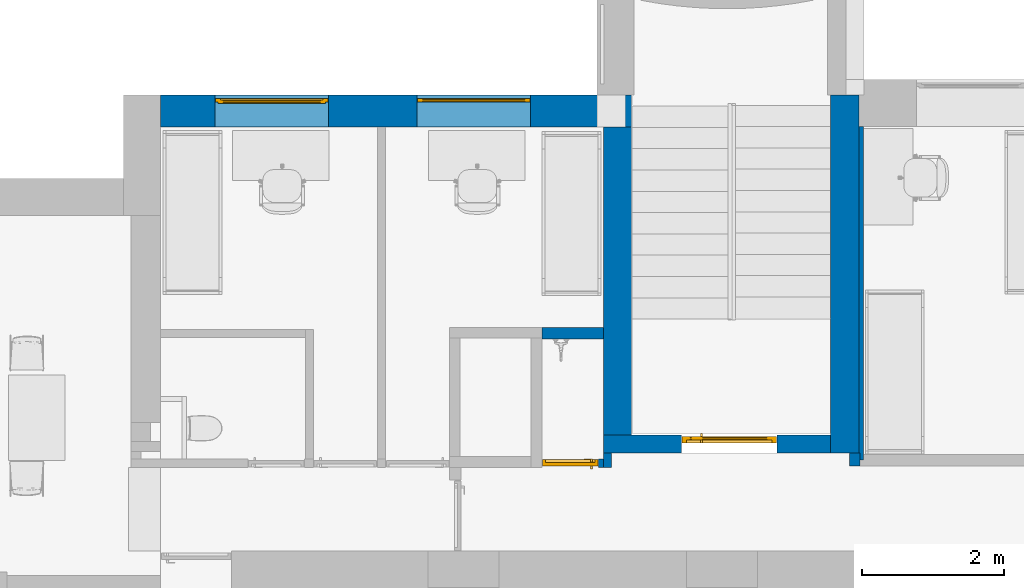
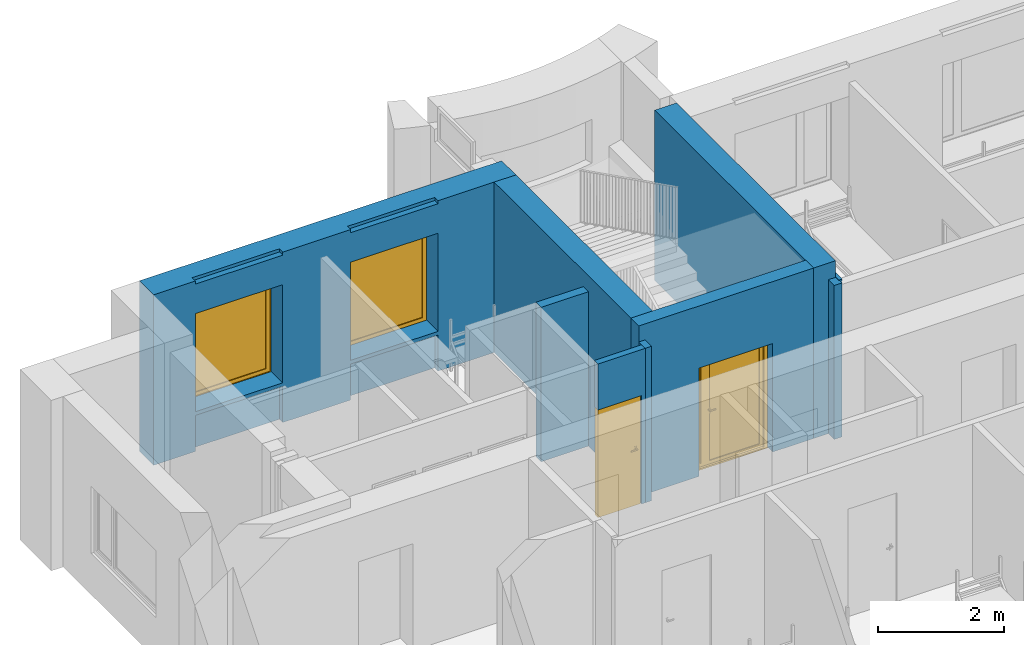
# One storey, part 6 of 48: 9 walls, 2 doors, 2 windows, 5 openings.
"""IFC2X3 building model written with IfcOpenShell, lengths in millimetres."""

from ifc_helpers import new_model, entity, si_unit, converted_unit, derived_unit, direction, frame, frame_2d, origin, origin_2d_with_axis, place, context, subcontext, project, spatial, polyline, rectangle, outline, extrude, faceted_brep, source, transform, mapped, material, material_list, layer, layer_set, layer_usage, type_object, type_shapes, element, fill, save


model = new_model("IFC2X3")

# Units and contexts
model_context = context("Model", 3, precision=0.01, world=origin(), true_north=direction((6.12303176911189e-17, 1.0)))
body_context = subcontext(model_context, "Body", "Model", "MODEL_VIEW")
ifc_project = project(units=[si_unit("LENGTHUNIT", "METRE", prefix="MILLI"), si_unit("AREAUNIT", "SQUARE_METRE"), si_unit("VOLUMEUNIT", "CUBIC_METRE"), converted_unit("PLANEANGLEUNIT", "DEGREE", entity("IfcRatioMeasure", 0.0174532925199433), si_unit("PLANEANGLEUNIT", "RADIAN"), dimensions=[0, 0, 0, 0, 0, 0, 0]), si_unit("MASSUNIT", "GRAM", prefix="KILO"), derived_unit("MASSDENSITYUNIT", [(si_unit("MASSUNIT", "GRAM", prefix="KILO"), 1), (si_unit("LENGTHUNIT", "METRE"), -3)]), si_unit("TIMEUNIT", "SECOND"), si_unit("FREQUENCYUNIT", "HERTZ"), si_unit("THERMODYNAMICTEMPERATUREUNIT", "DEGREE_CELSIUS"), derived_unit("THERMALTRANSMITTANCEUNIT", [(si_unit("MASSUNIT", "GRAM", prefix="KILO"), 1), (si_unit("THERMODYNAMICTEMPERATUREUNIT", "KELVIN"), -1), (si_unit("TIMEUNIT", "SECOND"), -3)]), derived_unit("VOLUMETRICFLOWRATEUNIT", [(si_unit("LENGTHUNIT", "METRE"), 3), (si_unit("TIMEUNIT", "SECOND"), -1)]), si_unit("ELECTRICCURRENTUNIT", "AMPERE"), si_unit("ELECTRICVOLTAGEUNIT", "VOLT"), si_unit("POWERUNIT", "WATT"), si_unit("FORCEUNIT", "NEWTON", prefix="KILO"), si_unit("ILLUMINANCEUNIT", "LUX"), si_unit("LUMINOUSFLUXUNIT", "LUMEN"), si_unit("LUMINOUSINTENSITYUNIT", "CANDELA"), derived_unit("USERDEFINED", [(si_unit("MASSUNIT", "GRAM", prefix="KILO"), -1), (si_unit("LENGTHUNIT", "METRE"), -2), (si_unit("TIMEUNIT", "SECOND"), 3), (si_unit("LUMINOUSFLUXUNIT", "LUMEN"), 1)]), derived_unit("LINEARVELOCITYUNIT", [(si_unit("LENGTHUNIT", "METRE"), 1), (si_unit("TIMEUNIT", "SECOND"), -1)]), si_unit("PRESSUREUNIT", "PASCAL"), derived_unit("USERDEFINED", [(si_unit("LENGTHUNIT", "METRE"), -2), (si_unit("MASSUNIT", "GRAM", prefix="KILO"), 1), (si_unit("TIMEUNIT", "SECOND"), -2)]), derived_unit("LINEARFORCEUNIT", [(si_unit("MASSUNIT", "GRAM", prefix="KILO"), 1), (si_unit("LENGTHUNIT", "METRE"), 1), (si_unit("TIMEUNIT", "SECOND"), -2), (si_unit("LENGTHUNIT", "METRE"), -1)]), derived_unit("PLANARFORCEUNIT", [(si_unit("MASSUNIT", "GRAM", prefix="KILO"), 1), (si_unit("LENGTHUNIT", "METRE"), 1), (si_unit("TIMEUNIT", "SECOND"), -2), (si_unit("LENGTHUNIT", "METRE"), -2)])], contexts=[model_context])

# Site, building, storey
site_placement = place(None, origin())
site = spatial("IfcSite", under=ifc_project, at=site_placement, Name="Default", CompositionType="ELEMENT")
building_placement = place(site_placement, origin())
building = spatial("IfcBuilding", under=site, at=building_placement, Name="SMA ARH", CompositionType="ELEMENT")
storey_placement = place(building_placement, frame((0.0, 0.0, 3300.0)))
storey = spatial("IfcBuildingStorey", under=building, at=storey_placement, Name="2 Korrus", CompositionType="ELEMENT", Elevation=3299.99999999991)

# Walls
ifc_material_1 = material(Name="_ol.olev sein")
ifc_layer_1 = layer(ifc_material_1, 400.0)
ifc_layer_set_1 = layer_set([ifc_layer_1], Name="Basic Wall:Generic - 400mm")
ifc_layer_usage_1 = layer_usage(ifc_layer_set_1, "AXIS2", "POSITIVE", -200.0)
wall_type_1 = type_object("IfcWallType", Name="Basic Wall:Generic - 400mm", PredefinedType="STANDARD", material=ifc_layer_set_1)
wall_1_placement = place(storey_placement, frame((11800.0, 7905.0, 0.0), z_axis=(0.0, 0.0, 1.0), x_axis=(0.0, 1.0, 0.0)))
element("IfcWallStandardCase", 1, at=wall_1_placement, inside=storey, type_object=wall_type_1, material=ifc_layer_usage_1, Name="Basic Wall:Generic - 400mm", ObjectType="Basic Wall:Generic - 400mm", context=body_context, shape_type="SweptSolid", body=[
    extrude(rectangle(XDim=5040.0, YDim=400.0, at=frame_2d((2520.0, 3.12638803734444e-13), x_axis=(-1.0, 0.0))), origin(), (0.0, 0.0, 1.0), 3299.99999999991),
])
ifc_layer_usage_2 = layer_usage(ifc_layer_set_1, "AXIS2", "POSITIVE", -200.0)
wall_2_placement = place(storey_placement, frame((8600.0, 12496.2030428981, 0.0), z_axis=(0.0, 0.0, 1.0), x_axis=(0.0, -1.0, 0.0)))
element("IfcWallStandardCase", 2, at=wall_2_placement, inside=storey, type_object=wall_type_1, material=ifc_layer_usage_2, Name="Basic Wall:Generic - 400mm", ObjectType="Basic Wall:Generic - 400mm", context=body_context, shape_type="SweptSolid", body=[
    extrude(rectangle(XDim=4341.20304289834, YDim=400.0, at=frame_2d((2170.60152144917, -1.98951966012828e-13), x_axis=(-1.0, 0.0))), origin(), (0.0, 0.0, 1.0), 3299.99999999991),
])

# Wall, openings, windows
ifc_layer_2 = layer(ifc_material_1, 450.0)
ifc_layer_set_2 = layer_set([ifc_layer_2], Name="Basic Wall:Generic - 450mm")
ifc_layer_usage_3 = layer_usage(ifc_layer_set_2, "AXIS2", "NEGATIVE", 225.0)
wall_type_2 = type_object("IfcWallType", Name="Basic Wall:Generic - 450mm", PredefinedType="STANDARD", material=ifc_layer_set_2)
wall_3_placement = place(storey_placement, frame((2165.0, 12721.2030428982, 0.0)))
wall_3 = element("IfcWallStandardCase", 3, at=wall_3_placement, inside=storey, type_object=wall_type_2, material=ifc_layer_usage_3, Name="Basic Wall:Generic - 450mm", ObjectType="Basic Wall:Generic - 450mm", context=body_context, shape_type="SweptSolid", body=[
    extrude(rectangle(XDim=6635.0, YDim=450.000000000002, at=frame_2d((3317.5, 2.27373675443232e-13), x_axis=(-1.0, 0.0))), origin(), (0.0, 0.0, 1.0), 3299.99999999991),
])
opening_1_placement = place(wall_3_placement, origin())
element("IfcOpeningElement", 4, at=opening_1_placement, cuts=wall_3, Name="Basic Wall:Generic - 450mm", ObjectType="Recess", context=body_context, shape_type="SweptSolid", body=[
    extrude(rectangle(XDim=757.825710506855, YDim=1600.0, at=frame_2d((-5.40012479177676e-13, 5.11590769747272e-13), x_axis=(1.0, 0.0))), frame((4410.0, -225.0, 3618.91285525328), z_axis=(0.0, 1.0, 0.0), x_axis=(0.0, 0.0, -1.0)), (0.0, 0.0, 1.0), 103.796957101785),
    extrude(rectangle(XDim=757.825710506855, YDim=1600.0, at=frame_2d((-5.40012479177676e-13, -5.11590769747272e-13), x_axis=(1.0, 0.0))), frame((1565.0, -225.0, 3618.91285525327), z_axis=(0.0, 1.0, 0.0), x_axis=(0.0, 0.0, -1.0)), (0.0, 0.0, 1.0), 103.796957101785),
    extrude(rectangle(XDim=757.825710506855, YDim=1600.0, at=frame_2d((0.0, -5.11590769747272e-13), x_axis=(1.0, 0.0))), frame((4410.0, -225.0, 318.912855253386), z_axis=(0.0, 1.0, 0.0), x_axis=(0.0, 0.0, -1.0)), (0.0, 0.0, 1.0), 103.796957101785),
    extrude(rectangle(XDim=757.825710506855, YDim=1600.0, at=origin_2d_with_axis()), frame((1565.0, -225.0, 318.912855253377), z_axis=(0.0, 1.0, 0.0), x_axis=(0.0, 0.0, -1.0)), (0.0, 0.0, 1.0), 103.796957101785),
])
opening_2_placement = place(wall_3_placement, frame((765.0, -225.0, 770.0)))
opening_2 = element("IfcOpeningElement", 5, at=opening_2_placement, cuts=wall_3, Name="SMA_W1, 1-jaotus1:A-00_1650x1900 mm:1", ObjectType="Opening", context=body_context, shape_type="SweptSolid", body=[
    extrude(rectangle(XDim=1900.0, YDim=1600.0, at=frame_2d((950.0, 800.0), x_axis=(1.0, 0.0))), frame((0.0, 0.0, 0.0), z_axis=(0.0, 1.0, 0.0), x_axis=(0.0, 0.0, 1.0)), (0.0, 0.0, 1.0), 450.0),
])
opening_3_placement = place(wall_3_placement, frame((3610.0, -225.0, 770.0)))
opening_3 = element("IfcOpeningElement", 6, at=opening_3_placement, cuts=wall_3, Name="SMA_W1, 1-jaotus1:A-00_1650x1900 mm kinni:1", ObjectType="Opening", context=body_context, shape_type="SweptSolid", body=[
    extrude(rectangle(XDim=1900.0, YDim=1600.0, at=frame_2d((950.0, 800.0), x_axis=(1.0, 0.0))), frame((0.0, 0.0, 0.0), z_axis=(0.0, 1.0, 0.0), x_axis=(0.0, 0.0, 1.0)), (0.0, 0.0, 1.0), 450.0),
])
ifc_material_2 = material(Name="EST. Klaas. 3x. Default")
ifc_material_3 = material(Name="Default")
ifc_material_list_1 = material_list([ifc_material_2, ifc_material_3])
ifc_material_4 = material(Name="<Unnamed>")
ifc_material_list_2 = material_list([ifc_material_2, ifc_material_3, ifc_material_4, ifc_material_3, ifc_material_4])
window_style_1 = type_object("IfcWindowStyle", Name="SMA_W1, 1-jaotus1:A-00_1650x1900 mm", ConstructionType="NOTDEFINED", OperationType="NOTDEFINED", ParameterTakesPrecedence=False, Sizeable=False, material=ifc_material_list_2)
shared_shape_1 = source(origin(), body_context, "Body", "SweptSolid", [
    extrude(rectangle(XDim=20.0, YDim=1370.0, at=frame_2d((1.68753899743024e-14, -1.13686837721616e-13), x_axis=(1.0, 0.0))), frame((800.0, 350.0, 115.0), z_axis=(0.0, 0.0, 1.0), x_axis=(0.0, 1.0, 0.0)), (0.0, 0.0, 1.0), 1670.0),
    extrude(outline(polyline([(-905.0, -755.0), (905.0, -755.0), (905.0, 755.0), (-905.0, 755.0), (-905.0, -755.0)]), holes=[polyline([(835.0, 685.0), (835.0, -685.0), (-835.0, -685.0), (-835.0, 685.0), (835.0, 685.0)])]), frame((800.0, 325.0, 950.0), z_axis=(0.0, 1.0, 0.0), x_axis=(0.0, 0.0, 1.0)), (0.0, 0.0, 1.0), 50.0),
    extrude(outline(polyline([(-940.0, -790.0), (940.0, -790.0), (940.0, 790.0), (-940.0, 790.0), (-940.0, -790.0)]), holes=[polyline([(-870.0, -720.0), (-870.0, 720.0), (870.0, 720.0), (870.0, -720.0), (-870.0, -720.0)])]), frame((800.0, 350.0, 950.0), z_axis=(0.0, 1.0, 0.0), x_axis=(0.0, 0.0, 1.0)), (0.0, 0.0, 1.0), 50.0),
])
type_shapes(window_style_1, [shared_shape_1])
window_1_placement = place(opening_2_placement, origin())
window_1 = element("IfcWindow", 7, at=window_1_placement, inside=storey, type_object=window_style_1, material=ifc_material_list_1, Name="SMA_W1, 1-jaotus1:A-00_1650x1900 mm", ObjectType="SMA_W1, 1-jaotus1:A-00_1650x1900 mm", OverallHeight=1900.0, OverallWidth=1600.0, context=body_context, shape_type="MappedRepresentation", body=[
    mapped(shared_shape_1, transform((0.0, 0.0, 0.0), scale=1.0)),
])
fill(opening_2, window_1)
ifc_material_list_3 = material_list([ifc_material_3, ifc_material_2])
ifc_material_list_4 = material_list([ifc_material_4, ifc_material_3, ifc_material_2, ifc_material_3, ifc_material_4])
window_style_2 = type_object("IfcWindowStyle", Name="SMA_W1, 1-jaotus1:A-00_1650x1900 mm kinni", ConstructionType="NOTDEFINED", OperationType="NOTDEFINED", ParameterTakesPrecedence=False, Sizeable=False, material=ifc_material_list_4)
shared_shape_2 = source(origin(), body_context, "Body", "SweptSolid", [
    extrude(outline(polyline([(-940.0, -790.0), (940.0, -790.0), (940.0, 790.0), (-940.0, 790.0), (-940.0, -790.0)]), holes=[polyline([(-870.0, -720.0), (-870.0, 720.0), (870.0, 720.0), (870.0, -720.0), (-870.0, -720.0)])]), frame((800.0, 350.0, 950.0), z_axis=(0.0, 1.0, 0.0), x_axis=(0.0, 0.0, 1.0)), (0.0, 0.0, 1.0), 50.0),
    extrude(rectangle(XDim=20.0, YDim=1440.0, at=frame_2d((-8.88178419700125e-15, 5.6843418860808e-14), x_axis=(1.0, 0.0))), frame((800.0, 375.0, 80.0), z_axis=(0.0, 0.0, 1.0), x_axis=(0.0, 1.0, 0.0)), (0.0, 0.0, 1.0), 1740.0),
])
type_shapes(window_style_2, [shared_shape_2])
window_2_placement = place(opening_3_placement, origin())
window_2 = element("IfcWindow", 8, at=window_2_placement, inside=storey, type_object=window_style_2, material=ifc_material_list_3, Name="SMA_W1, 1-jaotus1:A-00_1650x1900 mm kinni", ObjectType="SMA_W1, 1-jaotus1:A-00_1650x1900 mm kinni", OverallHeight=1900.0, OverallWidth=1600.0, context=body_context, shape_type="MappedRepresentation", body=[
    mapped(shared_shape_2, transform((0.0, 0.0, 0.0), scale=1.0)),
])
fill(opening_3, window_2)

# Wall, opening, door
ifc_layer_3 = layer(ifc_material_1, 250.0)
ifc_layer_set_3 = layer_set([ifc_layer_3], Name="Basic Wall:Generic - 250mm")
ifc_layer_usage_4 = layer_usage(ifc_layer_set_3, "AXIS2", "POSITIVE", -125.0)
wall_type_3 = type_object("IfcWallType", Name="Basic Wall:Generic - 250mm", PredefinedType="STANDARD", material=ifc_layer_set_3)
wall_4_placement = place(storey_placement, frame((8400.0, 8030.0, 0.0)))
wall_4 = element("IfcWallStandardCase", 9, at=wall_4_placement, inside=storey, type_object=wall_type_3, material=ifc_layer_usage_4, Name="Basic Wall:Generic - 250mm", ObjectType="Basic Wall:Generic - 250mm", context=body_context, shape_type="SweptSolid", body=[
    extrude(rectangle(XDim=3200.0, YDim=249.999999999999, at=frame_2d((1600.0, 7.105427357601e-14), x_axis=(-1.0, 0.0))), origin(), (0.0, 0.0, 1.0), 3299.99999999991),
])
opening_4_placement = place(wall_4_placement, frame((1100.0, -125.0, 0.0)))
opening_4 = element("IfcOpeningElement", 10, at=opening_4_placement, cuts=wall_4, Name="SMA_D02, 2-poolne:SU-AL-03 - 1350x2100:1", ObjectType="Opening", context=body_context, shape_type="SweptSolid", body=[
    extrude(rectangle(XDim=2099.99999999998, YDim=1350.0, at=frame_2d((1049.99999999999, 675.0), x_axis=(1.0, 0.0))), frame((0.0, 0.0, 0.0), z_axis=(0.0, 1.0, 0.0), x_axis=(0.0, 0.0, 1.0)), (0.0, 0.0, 1.0), 250.0),
])
ifc_material_5 = material(Name="EST. Metall. Plekk. Värvitud. RAL7023 (Concrete grey)")
ifc_material_list_5 = material_list([ifc_material_5, ifc_material_2])
ifc_material_list_6 = material_list([ifc_material_5, ifc_material_4, ifc_material_5, ifc_material_5, ifc_material_4, ifc_material_2, ifc_material_4])
door_style_1 = type_object("IfcDoorStyle", Name="SMA_D02, 2-poolne:SU-AL-03 - 1350x2100", ConstructionType="NOTDEFINED", OperationType="NOTDEFINED", ParameterTakesPrecedence=False, Sizeable=False, material=ifc_material_list_6)
shared_shape_3 = source(origin(), body_context, "Body", "Brep", [
    faceted_brep([(297.499999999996, 140.0, 1100.0), (297.499999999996, 178.0, 1100.0), (272.499999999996, 178.0, 1100.0), (272.499999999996, 135.0, 1100.0), (392.499999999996, 135.0, 1100.0), (392.499999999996, 140.0, 1100.0), (297.499999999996, 140.0, 1075.0), (392.499999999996, 140.0, 1075.0), (392.499999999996, 135.0, 1075.0), (272.499999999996, 135.0, 1075.0), (272.499999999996, 178.0, 1075.0), (297.499999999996, 178.0, 1075.0)], [[[0, 1, 2, 3, 4, 5]], [[6, 7, 8, 9, 10, 11]], [[1, 0, 6, 11]], [[2, 1, 11, 10]], [[3, 2, 10, 9]], [[4, 3, 9, 8]], [[5, 4, 8, 7]], [[0, 5, 7, 6]]]),
    faceted_brep([(310.0, 178.0, 1125.0), (310.0, 180.0, 1125.0), (260.0, 180.0, 1125.0), (260.0, 178.0, 1125.0), (310.0, 178.0, 1005.0), (260.0, 178.0, 1005.0), (260.0, 180.0, 1005.0), (310.0, 180.0, 1005.0)], [[[0, 1, 2, 3]], [[4, 5, 6, 7]], [[1, 0, 4, 7]], [[2, 1, 7, 6]], [[3, 2, 6, 5]], [[0, 3, 5, 4]]]),
    faceted_brep([(297.499999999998, 270.0, 1100.0), (392.499999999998, 270.0, 1100.0), (392.499999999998, 275.0, 1100.0), (272.499999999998, 275.0, 1100.0), (272.499999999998, 232.0, 1100.0), (297.499999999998, 232.0, 1100.0), (297.499999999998, 270.0, 1075.0), (297.499999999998, 232.0, 1075.0), (272.499999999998, 232.0, 1075.0), (272.499999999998, 275.0, 1075.0), (392.499999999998, 275.0, 1075.0), (392.499999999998, 270.0, 1075.0)], [[[0, 1, 2, 3, 4, 5]], [[6, 7, 8, 9, 10, 11]], [[5, 7, 6, 0]], [[4, 8, 7, 5]], [[3, 9, 8, 4]], [[2, 10, 9, 3]], [[1, 11, 10, 2]], [[0, 6, 11, 1]]]),
    faceted_brep([(310.0, 232.0, 1125.0), (260.0, 232.0, 1125.0), (260.0, 230.0, 1125.0), (310.0, 230.0, 1125.0), (310.0, 232.0, 1005.0), (310.0, 230.0, 1005.0), (260.0, 230.0, 1005.0), (260.0, 232.0, 1005.0)], [[[0, 1, 2, 3]], [[4, 5, 6, 7]], [[3, 5, 4, 0]], [[2, 6, 5, 3]], [[1, 7, 6, 2]], [[0, 4, 7, 1]]]),
    faceted_brep([(1274.5, 140.0, 30.0), (1274.5, 140.0, 0.0), (1274.5, 180.0, 0.0), (1274.5, 180.0, 20.0), (1274.5, 180.0, 30.0), (75.4999999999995, 140.0, 30.0), (75.4999999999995, 180.0, 30.0), (75.4999999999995, 180.0, 20.0), (75.4999999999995, 180.0, 0.0), (75.4999999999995, 140.0, 0.0), (65.4999999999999, 180.0, 0.0), (65.4999999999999, 230.0, 0.0), (1284.5, 230.0, 0.0), (1284.5, 180.0, 0.0), (1284.5, 230.0, 20.0), (1284.5, 180.0, 20.0), (65.4999999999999, 230.0, 20.0), (65.4999999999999, 180.0, 20.0)], [[[0, 1, 2, 3, 4]], [[5, 6, 7, 8, 9]], [[1, 0, 5, 9]], [[2, 1, 9, 8, 10, 11, 12, 13]], [[6, 4, 3, 7]], [[0, 4, 6, 5]], [[14, 15, 13, 12]], [[16, 11, 10, 17]], [[15, 14, 16, 17, 7, 3]], [[13, 15, 3, 2]], [[14, 12, 11, 16]], [[17, 10, 8, 7]]]),
    faceted_brep([(1340.0, 140.0, 0.0), (1274.5, 140.0, 0.0), (1274.5, 180.0, 0.0), (1284.5, 180.0, 0.0), (1284.5, 230.0, 0.0), (1340.0, 230.0, 0.0), (1340.0, 140.0, 2090.0), (10.0, 140.0, 2090.0), (10.0, 140.0, 0.0), (75.4999999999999, 140.0, 0.0), (75.4999999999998, 140.0, 2024.49999999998), (1274.5, 140.0, 2024.49999999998), (1274.5, 180.0, 2024.49999999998), (75.5000000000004, 180.0, 2024.49999999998), (75.5000000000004, 180.0, 0.0), (65.5000000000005, 180.0, 0.0), (65.5000000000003, 180.0, 2034.49999999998), (1284.5, 180.0, 2034.49999999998), (1284.5, 230.0, 2034.49999999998), (65.5000000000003, 230.0, 2034.49999999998), (65.5000000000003, 230.0, 0.0), (10.0, 230.0, 0.0), (10.0, 230.0, 2090.0), (1340.0, 230.0, 2090.0)], [[[0, 1, 2, 3, 4, 5]], [[1, 0, 6, 7, 8, 9, 10, 11]], [[2, 1, 11, 12]], [[3, 2, 12, 13, 14, 15, 16, 17]], [[4, 3, 17, 18]], [[5, 4, 18, 19, 20, 21, 22, 23]], [[0, 5, 23, 6]], [[8, 7, 22, 21]], [[9, 8, 21, 20, 15, 14]], [[10, 9, 14, 13]], [[16, 15, 20, 19]], [[11, 10, 13, 12]], [[17, 16, 19, 18]], [[7, 6, 23, 22]]]),
    faceted_brep([(140.500000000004, 195.0, 95.0), (140.500000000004, 195.0, 1955.0), (125.0, 195.0, 1955.0), (125.0, 195.0, 95.0), (140.500000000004, 215.0, 95.0), (125.0, 215.0, 95.0), (125.0, 215.0, 1955.0), (140.500000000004, 215.0, 1955.0)], [[[0, 1, 2, 3]], [[4, 5, 6, 7]], [[0, 3, 5, 4]], [[3, 2, 6, 5]], [[2, 1, 7, 6]], [[1, 0, 4, 7]]]),
    faceted_brep([(295.0, 195.0, 95.0), (1209.5, 195.0, 95.0), (1209.5, 195.0, 1955.0), (295.0, 195.0, 1955.0), (295.0, 215.0, 95.0), (295.0, 215.0, 1955.0), (1209.5, 215.0, 1955.0), (1209.5, 215.0, 95.0)], [[[0, 1, 2, 3]], [[4, 5, 6, 7]], [[1, 0, 4, 7]], [[2, 1, 7, 6]], [[3, 2, 6, 5]], [[0, 3, 5, 4]]]),
    faceted_brep([(210.0, 180.0, 2034.49999999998), (65.4999999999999, 180.0, 2034.49999999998), (65.4999999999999, 180.0, 20.0), (210.0, 180.0, 20.0), (140.500000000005, 180.0, 1955.0), (140.500000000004, 180.0, 95.0), (125.0, 180.0, 95.0), (125.0, 180.0, 1955.0), (210.0, 230.0, 2034.49999999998), (210.0, 230.0, 20.0), (65.4999999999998, 230.0, 20.0), (65.4999999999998, 230.0, 2034.49999999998), (140.500000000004, 230.0, 95.0), (140.500000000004, 230.0, 1955.0), (125.0, 230.0, 1955.0), (125.0, 230.0, 95.0)], [[[0, 1, 2, 3], [4, 5, 6, 7]], [[8, 9, 10, 11], [12, 13, 14, 15]], [[1, 0, 8, 11]], [[2, 1, 11, 10]], [[3, 2, 10, 9]], [[0, 3, 9, 8]], [[12, 5, 4, 13]], [[5, 12, 15, 6]], [[6, 15, 14, 7]], [[7, 14, 13, 4]]]),
    faceted_brep([(210.0, 180.0, 2034.49999999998), (210.0, 180.0, 20.0), (1284.5, 180.0, 20.0), (1284.5, 180.0, 2034.49999999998), (295.0, 180.0, 95.0), (295.0, 180.0, 1955.0), (1209.5, 180.0, 1955.0), (1209.5, 180.0, 95.0), (210.0, 230.0, 2034.49999999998), (1284.5, 230.0, 2034.49999999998), (1284.5, 230.0, 20.0), (210.0, 230.0, 20.0), (295.0, 230.0, 1955.0), (295.0, 230.0, 95.0), (1209.5, 230.0, 95.0), (1209.5, 230.0, 1955.0)], [[[0, 1, 2, 3], [4, 5, 6, 7]], [[8, 9, 10, 11], [12, 13, 14, 15]], [[1, 0, 8, 11]], [[2, 1, 11, 10]], [[3, 2, 10, 9]], [[0, 3, 9, 8]], [[12, 5, 4, 13]], [[13, 4, 7, 14]], [[14, 7, 6, 15]], [[5, 12, 15, 6]]]),
])
type_shapes(door_style_1, [shared_shape_3])
door_1_placement = place(opening_4_placement, origin())
door_1 = element("IfcDoor", 11, at=door_1_placement, inside=storey, type_object=door_style_1, material=ifc_material_list_5, Name="SMA_D02, 2-poolne:SU-AL-03 - 1350x2100", ObjectType="SMA_D02, 2-poolne:SU-AL-03 - 1350x2100", OverallHeight=2099.99999999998, OverallWidth=1350.0, context=body_context, shape_type="MappedRepresentation", body=[
    mapped(shared_shape_3, transform((0.0, 0.0, 0.0), scale=1.0)),
])
fill(opening_4, door_1)

# Wall
ifc_material_6 = material(Name="EST. Ehitusplaat. Kipsplaat")
ifc_layer_4 = layer(ifc_material_6, 12.5)
ifc_layer_5 = layer(ifc_material_6, 12.5)
ifc_material_7 = material(Name="EST. Soojustus. Mineraalvill. Default")
ifc_layer_6 = layer(ifc_material_7, 50.0)
ifc_layer_7 = layer(ifc_material_6, 12.5)
ifc_layer_8 = layer(ifc_material_7, 50.0)
ifc_layer_9 = layer(ifc_material_6, 12.5)
ifc_layer_10 = layer(ifc_material_6, 12.5)
ifc_layer_set_4 = layer_set([ifc_layer_4, ifc_layer_5, ifc_layer_6, ifc_layer_7, ifc_layer_8, ifc_layer_9, ifc_layer_10], Name="Basic Wall:SS-04_Kips, 50+50 mm metallkarkass 2")
ifc_layer_usage_5 = layer_usage(ifc_layer_set_4, "AXIS2", "NEGATIVE", 81.25)
wall_type_4 = type_object("IfcWallType", Name="Basic Wall:SS-04_Kips, 50+50 mm metallkarkass 2", PredefinedType="STANDARD", material=ifc_layer_set_4)
wall_5_placement = place(storey_placement, frame((7533.72495019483, 9588.75000000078, 0.0)))
element("IfcWallStandardCase", 12, at=wall_5_placement, inside=storey, type_object=wall_type_4, material=ifc_layer_usage_5, Name="Basic Wall:SS-04_Kips, 50+50 mm metallkarkass 2", ObjectType="Basic Wall:SS-04_Kips, 50+50 mm metallkarkass 2", context=body_context, shape_type="SweptSolid", body=[
    extrude(rectangle(XDim=866.275049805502, YDim=162.5, at=frame_2d((433.137524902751, -3.05533376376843e-13), x_axis=(-1.0, 0.0))), origin(), (0.0, 0.0, 1.0), 2989.99999999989),
])

# Wall, opening, door
ifc_layer_11 = layer(ifc_material_6, 12.5)
ifc_layer_12 = layer(ifc_material_6, 12.5)
ifc_layer_13 = layer(ifc_material_7, 66.0)
ifc_layer_14 = layer(ifc_material_6, 12.5)
ifc_layer_15 = layer(ifc_material_6, 12.5)
ifc_layer_set_5 = layer_set([ifc_layer_11, ifc_layer_12, ifc_layer_13, ifc_layer_14, ifc_layer_15], Name="Basic Wall:SS-05_Kips, 66mm metallkarkass")
ifc_layer_usage_6 = layer_usage(ifc_layer_set_5, "AXIS2", "NEGATIVE", 58.0)
wall_type_5 = type_object("IfcWallType", Name="Basic Wall:SS-05_Kips, 66mm metallkarkass", PredefinedType="STANDARD", material=ifc_layer_set_5)
wall_6_placement = place(storey_placement, frame((7533.72495019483, 7758.0, 0.0)))
wall_6 = element("IfcWallStandardCase", 13, at=wall_6_placement, inside=storey, type_object=wall_type_5, material=ifc_layer_usage_6, Name="Basic Wall:SS-05_Kips, 66mm metallkarkass", ObjectType="Basic Wall:SS-05_Kips, 66mm metallkarkass", context=body_context, shape_type="SweptSolid", body=[
    extrude(rectangle(XDim=866.275049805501, YDim=116.0, at=frame_2d((433.137524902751, -4.9737991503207e-14), x_axis=(-1.0, 0.0))), origin(), (0.0, 0.0, 1.0), 2989.99999999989),
])
opening_5_placement = place(wall_6_placement, frame((800.0, 58.0, 0.0)))
opening_5 = element("IfcOpeningElement", 14, at=opening_5_placement, cuts=wall_6, Name="SMA_D01, 1-poolne:SU-M-07 - 800x2100 KORIS.:1", ObjectType="Opening", context=body_context, shape_type="SweptSolid", body=[
    extrude(rectangle(XDim=2099.99999999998, YDim=800.0, at=frame_2d((1049.99999999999, 400.0), x_axis=(1.0, 0.0))), frame((0.0, 0.0, 0.0), z_axis=(0.0, -1.0, 0.0), x_axis=(0.0, 0.0, 1.0)), (0.0, 0.0, 1.0), 116.0),
])
ifc_material_8 = material(Name="EST. Metall. Alumiinium. Värvitud. RAL7023 (Concrete grey)")
ifc_material_list_7 = material_list([ifc_material_4, ifc_material_4, ifc_material_8, ifc_material_4, ifc_material_8, ifc_material_2, ifc_material_8])
door_style_2 = type_object("IfcDoorStyle", Name="SMA_D01, 1-poolne:SU-M-07 - 800x2100 KORIS.", ConstructionType="NOTDEFINED", OperationType="SINGLE_SWING_RIGHT", ParameterTakesPrecedence=False, Sizeable=False, material=ifc_material_list_7)
shared_shape_4 = source(origin(), body_context, "Body", "Brep", [
    faceted_brep([(110.0, 6.0, 1112.5), (110.0, 44.0, 1112.5), (85.0, 44.0, 1112.5), (85.0, 1.0, 1112.5), (205.0, 1.0, 1112.5), (205.0, 6.0, 1112.5), (110.0, 6.0, 1087.5), (205.0, 6.0, 1087.5), (205.0, 1.0, 1087.5), (85.0, 1.0, 1087.5), (85.0, 44.0, 1087.5), (110.0, 44.0, 1087.5)], [[[0, 1, 2, 3, 4, 5]], [[6, 7, 8, 9, 10, 11]], [[1, 0, 6, 11]], [[2, 1, 11, 10]], [[3, 2, 10, 9]], [[4, 3, 9, 8]], [[5, 4, 8, 7]], [[0, 5, 7, 6]]]),
    faceted_brep([(122.5, 44.0, 1137.5), (122.5, 46.0, 1137.5), (72.4999999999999, 46.0, 1137.5), (72.4999999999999, 44.0, 1137.5), (122.5, 44.0, 1017.5), (72.4999999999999, 44.0, 1017.5), (72.4999999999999, 46.0, 1017.5), (122.5, 46.0, 1017.5)], [[[0, 1, 2, 3]], [[4, 5, 6, 7]], [[1, 0, 4, 7]], [[2, 1, 7, 6]], [[3, 2, 6, 5]], [[0, 3, 5, 4]]]),
    faceted_brep([(110.0, 136.0, 1112.5), (205.0, 136.0, 1112.5), (205.0, 141.0, 1112.5), (85.0, 141.0, 1112.5), (85.0, 98.0, 1112.5), (110.0, 98.0, 1112.5), (110.0, 136.0, 1087.5), (110.0, 98.0, 1087.5), (85.0, 98.0, 1087.5), (85.0, 141.0, 1087.5), (205.0, 141.0, 1087.5), (205.0, 136.0, 1087.5)], [[[0, 1, 2, 3, 4, 5]], [[6, 7, 8, 9, 10, 11]], [[5, 7, 6, 0]], [[4, 8, 7, 5]], [[3, 9, 8, 4]], [[2, 10, 9, 3]], [[1, 11, 10, 2]], [[0, 6, 11, 1]]]),
    faceted_brep([(122.5, 98.0, 1137.5), (72.4999999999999, 98.0, 1137.5), (72.4999999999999, 96.0, 1137.5), (122.5, 96.0, 1137.5), (122.5, 98.0, 1017.5), (122.5, 96.0, 1017.5), (72.4999999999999, 96.0, 1017.5), (72.4999999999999, 98.0, 1017.5)], [[[0, 1, 2, 3]], [[4, 5, 6, 7]], [[3, 5, 4, 0]], [[2, 6, 5, 3]], [[1, 7, 6, 2]], [[0, 4, 7, 1]]]),
    faceted_brep([(750.0, 6.0, 30.0), (750.0, 6.0, 0.0), (750.0, 46.0, 0.0), (750.0, 46.0, 20.0), (750.0, 46.0, 30.0), (50.0, 6.0, 30.0), (50.0, 46.0, 30.0), (50.0, 46.0, 20.0), (50.0, 46.0, 0.0), (50.0, 6.0, 0.0), (35.0, 46.0, 0.0), (35.0, 96.0, 0.0), (765.0, 96.0, 0.0), (765.0, 46.0, 0.0), (765.0, 96.0, 20.0), (765.0, 46.0, 20.0), (35.0, 96.0, 20.0), (35.0, 46.0, 20.0)], [[[0, 1, 2, 3, 4]], [[5, 6, 7, 8, 9]], [[1, 0, 5, 9]], [[2, 1, 9, 8, 10, 11, 12, 13]], [[6, 4, 3, 7]], [[0, 4, 6, 5]], [[14, 15, 13, 12]], [[16, 11, 10, 17]], [[15, 14, 16, 17, 7, 3]], [[13, 15, 3, 2]], [[14, 12, 11, 16]], [[17, 10, 8, 7]]]),
    faceted_brep([(790.0, 6.0, 0.0), (750.0, 6.0, 0.0), (750.0, 46.0, 0.0), (765.0, 46.0, 0.0), (765.0, 96.0, 0.0), (790.0, 96.0, 0.0), (790.0, 6.0, 2090.0), (10.0, 6.0, 2090.0), (10.0, 6.0, 0.0), (50.0, 6.0, 0.0), (50.0, 6.0, 2050.0), (750.0, 6.0, 2050.0), (750.0, 46.0, 2050.0), (50.0, 46.0, 2050.0), (50.0, 46.0, 0.0), (35.0, 46.0, 0.0), (35.0, 46.0, 2065.0), (765.0, 46.0, 2065.0), (765.0, 96.0, 2065.0), (35.0, 96.0, 2065.0), (35.0, 96.0, 0.0), (10.0, 96.0, 0.0), (10.0, 96.0, 2090.0), (790.0, 96.0, 2090.0)], [[[0, 1, 2, 3, 4, 5]], [[1, 0, 6, 7, 8, 9, 10, 11]], [[2, 1, 11, 12]], [[3, 2, 12, 13, 14, 15, 16, 17]], [[4, 3, 17, 18]], [[5, 4, 18, 19, 20, 21, 22, 23]], [[0, 5, 23, 6]], [[8, 7, 22, 21]], [[9, 8, 21, 20, 15, 14]], [[10, 9, 14, 13]], [[16, 15, 20, 19]], [[11, 10, 13, 12]], [[17, 16, 19, 18]], [[7, 6, 23, 22]]]),
    faceted_brep([(35.0, 46.0, 2065.0), (35.0, 46.0, 20.0), (765.0, 46.0, 20.0), (765.0, 46.0, 2065.0), (35.0, 96.0, 2065.0), (765.0, 96.0, 2065.0), (765.0, 96.0, 20.0), (35.0, 96.0, 20.0)], [[[0, 1, 2, 3]], [[4, 5, 6, 7]], [[1, 0, 4, 7]], [[2, 1, 7, 6]], [[3, 2, 6, 5]], [[0, 3, 5, 4]]]),
])
type_shapes(door_style_2, [shared_shape_4])
door_2_placement = place(opening_5_placement, frame((0.0, 0.0, 0.0), z_axis=(0.0, 0.0, 1.0), x_axis=(-1.0, 0.0, 0.0)))
door_2 = element("IfcDoor", 15, at=door_2_placement, inside=storey, type_object=door_style_2, material=ifc_material_8, Name="SMA_D01, 1-poolne:SU-M-07 - 800x2100 KORIS.", ObjectType="SMA_D01, 1-poolne:SU-M-07 - 800x2100 KORIS.", OverallHeight=2099.99999999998, OverallWidth=800.0, context=body_context, shape_type="MappedRepresentation", body=[
    mapped(shared_shape_4, transform((0.0, 0.0, 0.0), scale=1.0)),
])
fill(opening_5, door_2)

# Walls
ifc_layer_usage_7 = layer_usage(ifc_layer_set_5, "AXIS2", "NEGATIVE", 58.0)
wall_7_placement = place(storey_placement, frame((8458.0, 7700.0, 0.0), z_axis=(0.0, 0.0, 1.0), x_axis=(0.0, 1.0, 0.0)))
element("IfcWallStandardCase", 16, at=wall_7_placement, inside=storey, type_object=wall_type_5, material=ifc_layer_usage_7, Name="Basic Wall:SS-05_Kips, 66mm metallkarkass", ObjectType="Basic Wall:SS-05_Kips, 66mm metallkarkass", context=body_context, shape_type="SweptSolid", body=[
    extrude(rectangle(XDim=204.999999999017, YDim=116.0, at=frame_2d((102.499999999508, 0.0), x_axis=(-1.0, 0.0))), origin(), (0.0, 0.0, 1.0), 2989.99999999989),
])
ifc_layer_16 = layer(ifc_material_6, 12.5)
ifc_layer_17 = layer(ifc_material_6, 12.5)
ifc_material_9 = material(Name="EST. Õhkvahe. Roov. Kipsplaadi alusroov. Vertikaalne")
ifc_layer_18 = layer(ifc_material_9, 95.0)
ifc_layer_19 = layer(ifc_material_6, 12.5)
ifc_layer_20 = layer(ifc_material_6, 12.5)
ifc_layer_set_6 = layer_set([ifc_layer_16, ifc_layer_17, ifc_layer_18, ifc_layer_19, ifc_layer_20], Name="Basic Wall:SS-04_Kips, 95mm metallkarkass")
ifc_layer_usage_8 = layer_usage(ifc_layer_set_6, "AXIS2", "NEGATIVE", 72.5)
wall_type_6 = type_object("IfcWallType", Name="Basic Wall:SS-04_Kips, 95mm metallkarkass", PredefinedType="STANDARD", material=ifc_layer_set_6)
wall_8_placement = place(storey_placement, frame((11942.5000000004, 7720.0, 0.0), z_axis=(0.0, 0.0, 1.0), x_axis=(0.0, 1.0, 0.0)))
element("IfcWallStandardCase", 17, at=wall_8_placement, inside=storey, type_object=wall_type_6, material=ifc_layer_usage_8, Name="Basic Wall:SS-04_Kips, 95mm metallkarkass", ObjectType="Basic Wall:SS-04_Kips, 95mm metallkarkass", context=body_context, shape_type="SweptSolid", body=[
    extrude(rectangle(XDim=184.999999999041, YDim=145.0, at=frame_2d((92.4999999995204, 1.08002495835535e-12), x_axis=(-1.0, 0.0))), origin(), (0.0, 0.0, 1.0), 2979.99999999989),
])
ifc_layer_21 = layer(ifc_material_7, 50.0)
ifc_layer_22 = layer(ifc_material_6, 12.5)
ifc_layer_set_7 = layer_set([ifc_layer_21, ifc_layer_22], Name="Basic Wall:SS-05_Kips, 50mm metallkarkass")
ifc_layer_usage_9 = layer_usage(ifc_layer_set_7, "AXIS2", "POSITIVE", -31.25)
wall_type_7 = type_object("IfcWallType", Name="Basic Wall:SS-05_Kips, 50mm metallkarkass", PredefinedType="STANDARD", material=ifc_layer_set_7)
wall_9_placement = place(storey_placement, frame((12033.0, 12500.0, 0.0), z_axis=(0.0, 0.0, 1.0), x_axis=(0.0, -1.0, 0.0)))
element("IfcWallStandardCase", 18, at=wall_9_placement, inside=storey, type_object=wall_type_7, material=ifc_layer_usage_9, Name="Basic Wall:SS-05_Kips, 50mm metallkarkass", ObjectType="Basic Wall:SS-05_Kips, 50mm metallkarkass", context=body_context, shape_type="SweptSolid", body=[
    extrude(rectangle(XDim=4698.74999999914, YDim=62.4999999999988, at=frame_2d((2349.37499999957, -6.03961325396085e-14), x_axis=(-1.0, 0.0))), origin(), (0.0, 0.0, 1.0), 2989.99999999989),
])

save(model, "model.ifc")
